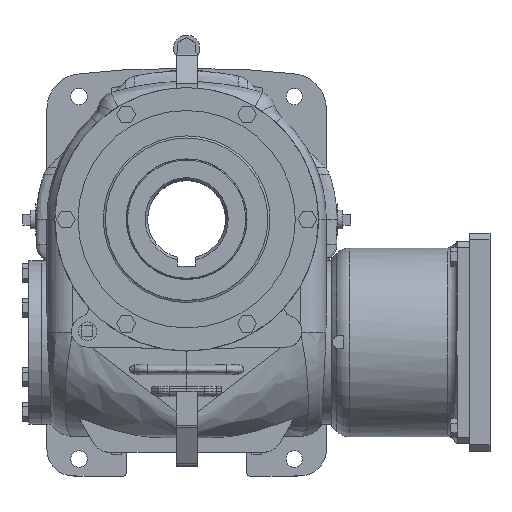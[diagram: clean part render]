
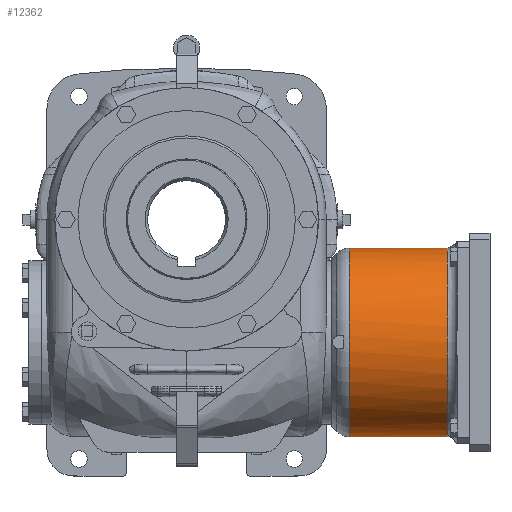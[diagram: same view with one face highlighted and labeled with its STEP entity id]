
A CAD part, top view. The second image highlights one B-rep face of the part: STEP entity #12362.
In plain terms, the highlighted cylindrical face has radius 136.525 mm (diameter 273.05 mm), a partial arc.
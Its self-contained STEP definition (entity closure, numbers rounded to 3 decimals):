
#339=CYLINDRICAL_SURFACE('',#15334,136.525);
#724=B_SPLINE_CURVE_WITH_KNOTS('',3,(#28286,#28287,#28288,#28289,#28290),
 .UNSPECIFIED.,.F.,.F.,(4,1,4),(0.,0.007,
0.015),.UNSPECIFIED.);
#725=B_SPLINE_CURVE_WITH_KNOTS('',3,(#28292,#28293,#28294,#28295,#28296),
 .UNSPECIFIED.,.F.,.F.,(4,1,4),(0.,0.007,
0.015),.UNSPECIFIED.);
#726=B_SPLINE_CURVE_WITH_KNOTS('',3,(#28300,#28301,#28302,#28303),
 .UNSPECIFIED.,.F.,.F.,(4,4),(0.064,0.069),
 .UNSPECIFIED.);
#727=B_SPLINE_CURVE_WITH_KNOTS('',3,(#28307,#28308,#28309,#28310),
 .UNSPECIFIED.,.F.,.F.,(4,4),(0.,0.006),.UNSPECIFIED.);
#1643=LINE('',#28298,#2679);
#1644=LINE('',#28312,#2680);
#2679=VECTOR('',#18151,1000.);
#2680=VECTOR('',#18154,1000.);
#5811=ORIENTED_EDGE('',*,*,#7767,.F.);
#5812=ORIENTED_EDGE('',*,*,#7761,.F.);
#5813=ORIENTED_EDGE('',*,*,#7768,.F.);
#5814=ORIENTED_EDGE('',*,*,#7769,.F.);
#5815=ORIENTED_EDGE('',*,*,#7770,.T.);
#5816=ORIENTED_EDGE('',*,*,#7771,.T.);
#5817=ORIENTED_EDGE('',*,*,#7772,.T.);
#5818=ORIENTED_EDGE('',*,*,#7773,.F.);
#7761=EDGE_CURVE('',#9007,#9008,#9364,.T.);
#7767=EDGE_CURVE('',#9008,#9013,#724,.T.);
#7768=EDGE_CURVE('',#9014,#9007,#725,.T.);
#7769=EDGE_CURVE('',#9015,#9014,#1643,.T.);
#7770=EDGE_CURVE('',#9015,#9016,#726,.T.);
#7771=EDGE_CURVE('',#9016,#9017,#9367,.F.);
#7772=EDGE_CURVE('',#9017,#9018,#727,.T.);
#7773=EDGE_CURVE('',#9013,#9018,#1644,.F.);
#9007=VERTEX_POINT('',#28258);
#9008=VERTEX_POINT('',#28259);
#9013=VERTEX_POINT('',#28291);
#9014=VERTEX_POINT('',#28297);
#9015=VERTEX_POINT('',#28299);
#9016=VERTEX_POINT('',#28304);
#9017=VERTEX_POINT('',#28306);
#9018=VERTEX_POINT('',#28311);
#9364=CIRCLE('',#15330,136.525);
#9367=CIRCLE('',#15335,136.525);
#10212=EDGE_LOOP('',(#5811,#5812,#5813,#5814,#5815,#5816,#5817,#5818));
#11150=FACE_BOUND('',#10212,.T.);
#12362=ADVANCED_FACE('',(#11150),#339,.T.);
#15330=AXIS2_PLACEMENT_3D('',#28257,#18139,#18140);
#15334=AXIS2_PLACEMENT_3D('',#28285,#18149,#18150);
#15335=AXIS2_PLACEMENT_3D('',#28305,#18152,#18153);
#18139=DIRECTION('',(-1.,0.,0.));
#18140=DIRECTION('',(0.,0.,1.));
#18149=DIRECTION('',(-1.,0.,0.));
#18150=DIRECTION('',(0.,0.,1.));
#18151=DIRECTION('',(-1.,0.,0.));
#18152=DIRECTION('',(1.,0.,0.));
#18153=DIRECTION('',(0.,0.,-1.));
#18154=DIRECTION('',(-1.,0.,0.));
#28257=CARTESIAN_POINT('',(25.69,0.,0.));
#28258=CARTESIAN_POINT('',(25.69,-24.927,-134.23));
#28259=CARTESIAN_POINT('',(25.69,24.927,-134.23));
#28285=CARTESIAN_POINT('',(-60.008,0.,0.));
#28286=CARTESIAN_POINT('',(25.69,24.927,-134.23));
#28287=CARTESIAN_POINT('',(27.821,26.122,-134.008));
#28288=CARTESIAN_POINT('',(32.302,27.93,-133.641));
#28289=CARTESIAN_POINT('',(37.205,28.575,-133.501));
#28290=CARTESIAN_POINT('',(39.66,28.575,-133.501));
#28291=CARTESIAN_POINT('',(39.66,28.575,-133.501));
#28292=CARTESIAN_POINT('',(39.66,-28.575,-133.501));
#28293=CARTESIAN_POINT('',(37.205,-28.575,-133.501));
#28294=CARTESIAN_POINT('',(32.402,-27.956,-133.636));
#28295=CARTESIAN_POINT('',(27.822,-26.122,-134.008));
#28296=CARTESIAN_POINT('',(25.69,-24.927,-134.23));
#28297=CARTESIAN_POINT('',(39.66,-28.575,-133.501));
#28298=CARTESIAN_POINT('',(-60.008,-28.575,-133.501));
#28299=CARTESIAN_POINT('',(167.52,-28.575,-133.501));
#28300=CARTESIAN_POINT('',(167.52,-28.575,-133.501));
#28301=CARTESIAN_POINT('',(167.477,-30.402,-133.11));
#28302=CARTESIAN_POINT('',(167.45,-32.223,-132.681));
#28303=CARTESIAN_POINT('',(167.45,-34.038,-132.214));
#28304=CARTESIAN_POINT('',(167.45,-34.038,-132.214));
#28305=CARTESIAN_POINT('',(167.45,0.,0.));
#28306=CARTESIAN_POINT('',(167.45,34.038,-132.214));
#28307=CARTESIAN_POINT('',(167.45,34.038,-132.214));
#28308=CARTESIAN_POINT('',(167.45,32.226,-132.68));
#28309=CARTESIAN_POINT('',(167.477,30.403,-133.11));
#28310=CARTESIAN_POINT('',(167.52,28.575,-133.501));
#28311=CARTESIAN_POINT('',(167.52,28.575,-133.501));
#28312=CARTESIAN_POINT('',(-60.008,28.575,-133.501));
